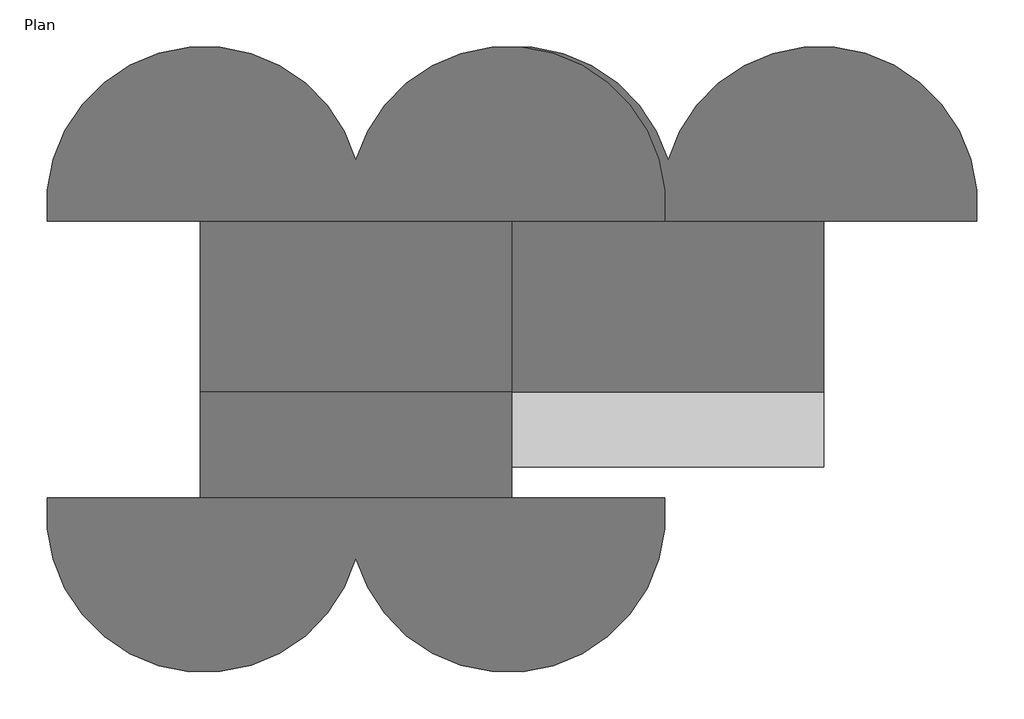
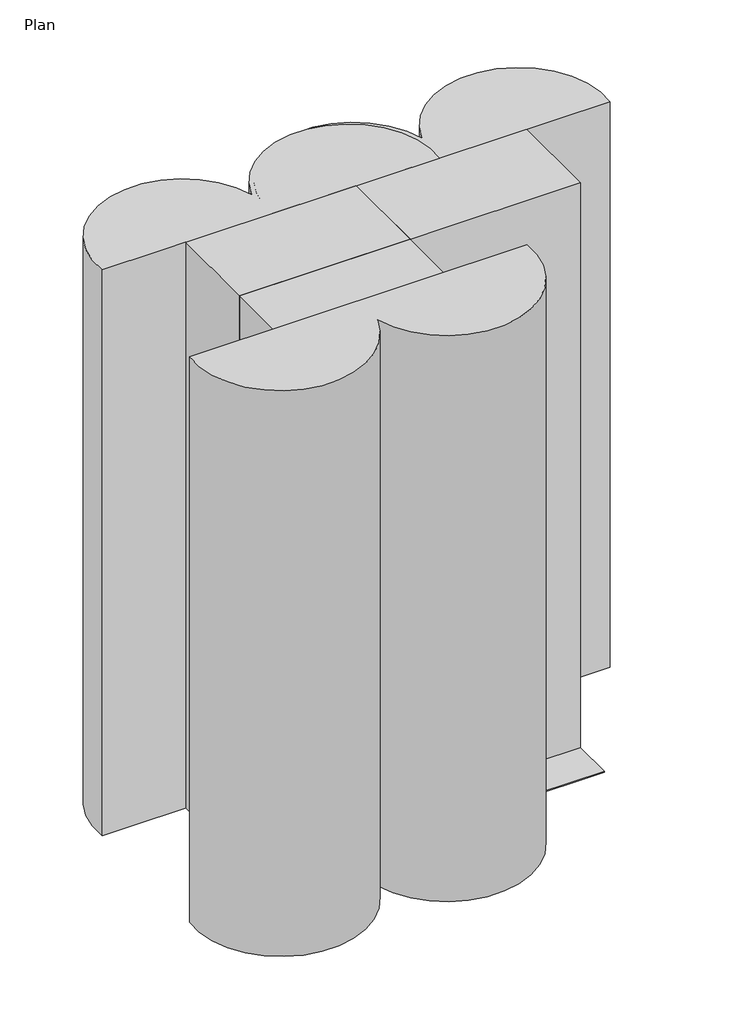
# One storey: 2 electric appliances.
"""IFC4 building model written with IfcOpenShell, lengths in millimetres."""

from ifc_helpers import new_model, si_unit, origin, place, context, project, spatial, transform, mapped, element, save
from components import hdf3168_00d753bc, hdf3168_86211367

model = new_model("IFC4")

# Units and contexts
model_context = context("Model", 3, world=origin())
ifc_project = project(units=[si_unit("LENGTHUNIT", "METRE", prefix="MILLI")], contexts=[model_context])

# Site, building, storey
site = spatial("IfcSite", under=ifc_project)
building = spatial("IfcBuilding", under=site)
storey = spatial("IfcBuildingStorey", under=building, Name="Plan", Elevation=0.0)

# Electric appliances
placement = place(None, origin())
hdf3168_shape = hdf3168_00d753bc(model_context)
element("IfcElectricAppliance", 1, ObjectType="Data_Device-Network-Leviton-HDF3168 : HDF3168", at=placement, inside=storey, context=model_context, shape_type="MappedRepresentation", body=[
    mapped(hdf3168_shape, transform((2407.493063, -494.6014281, 0.0), x_axis=(1.0, 0.0, 0.0), y_axis=(0.0, 1.0, 0.0), z_axis=(0.0, 0.0, 1.0))),
])
hdf3168_2_shape = hdf3168_86211367(model_context)
element("IfcElectricAppliance", 2, ObjectType="Data_Device-Network-Leviton-HDF3168 : HDF3168", at=placement, inside=storey, context=model_context, shape_type="MappedRepresentation", body=[
    mapped(hdf3168_2_shape, transform((3017.093063, -494.6014281, 0.0), x_axis=(1.0, 0.0, 0.0), y_axis=(0.0, 1.0, 0.0), z_axis=(0.0, 0.0, 1.0))),
])

save(model, "model.ifc")
